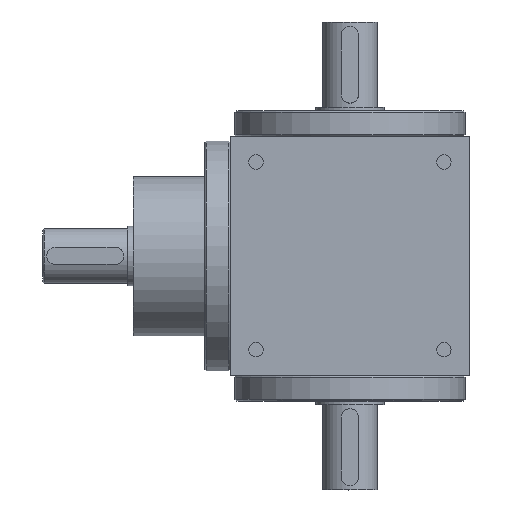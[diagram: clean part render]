
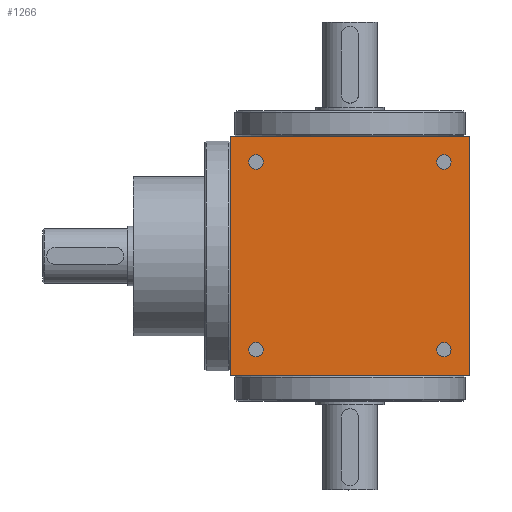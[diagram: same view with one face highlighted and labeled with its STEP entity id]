
A CAD part, top view. The second image highlights one B-rep face of the part: STEP entity #1266.
In plain terms, the highlighted planar face has unit normal (0, 0, 1).
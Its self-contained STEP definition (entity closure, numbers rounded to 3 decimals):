
#1266=ADVANCED_FACE('',(#1583,#1584,#1585,#1586,#1587),#1588,.T.);
#1583=FACE_BOUND('',#2286,.T.);
#1584=FACE_BOUND('',#2287,.T.);
#1585=FACE_BOUND('',#2288,.T.);
#1586=FACE_BOUND('',#2289,.T.);
#1587=FACE_OUTER_BOUND('',#2290,.T.);
#1588=PLANE('',#2291);
#2286=EDGE_LOOP('',(#3066));
#2287=EDGE_LOOP('',(#3067));
#2288=EDGE_LOOP('',(#3068));
#2289=EDGE_LOOP('',(#3069));
#2290=EDGE_LOOP('',(#3070,#3071,#3072,#3073));
#2291=AXIS2_PLACEMENT_3D('',#3074,#3075,#3076);
#3066=ORIENTED_EDGE('',*,*,#4408,.T.);
#3067=ORIENTED_EDGE('',*,*,#4394,.T.);
#3068=ORIENTED_EDGE('',*,*,#4407,.T.);
#3069=ORIENTED_EDGE('',*,*,#4406,.T.);
#3070=ORIENTED_EDGE('',*,*,#4426,.T.);
#3071=ORIENTED_EDGE('',*,*,#4427,.T.);
#3072=ORIENTED_EDGE('',*,*,#4424,.T.);
#3073=ORIENTED_EDGE('',*,*,#4428,.T.);
#3074=CARTESIAN_POINT('',(-70.0,-70.0,83.889));
#3075=DIRECTION('',(0.0,0.0,1.0));
#3076=DIRECTION('',(1.0,0.0,0.0));
#4394=EDGE_CURVE('',#4769,#4769,#4770,.T.);
#4406=EDGE_CURVE('',#4792,#4792,#4793,.T.);
#4407=EDGE_CURVE('',#4794,#4794,#4795,.T.);
#4408=EDGE_CURVE('',#4796,#4796,#4797,.T.);
#4424=EDGE_CURVE('',#4829,#4827,#4830,.T.);
#4426=EDGE_CURVE('',#4832,#4833,#4834,.T.);
#4427=EDGE_CURVE('',#4833,#4829,#4835,.T.);
#4428=EDGE_CURVE('',#4827,#4832,#4836,.T.);
#4769=VERTEX_POINT('',#5680);
#4770=CIRCLE('',#5681,4.25);
#4792=VERTEX_POINT('',#5703);
#4793=CIRCLE('',#5704,4.25);
#4794=VERTEX_POINT('',#5705);
#4795=CIRCLE('',#5706,4.25);
#4796=VERTEX_POINT('',#5707);
#4797=CIRCLE('',#5708,4.25);
#4827=VERTEX_POINT('',#5739);
#4829=VERTEX_POINT('',#5742);
#4830=LINE('',#5743,#5744);
#4832=VERTEX_POINT('',#5747);
#4833=VERTEX_POINT('',#5748);
#4834=LINE('',#5749,#5750);
#4835=LINE('',#5751,#5752);
#4836=LINE('',#5753,#5754);
#5680=CARTESIAN_POINT('',(55.0,-59.25,83.889));
#5681=AXIS2_PLACEMENT_3D('',#6694,#6695,#6696);
#5703=CARTESIAN_POINT('',(-55.0,50.75,83.889));
#5704=AXIS2_PLACEMENT_3D('',#6730,#6731,#6732);
#5705=CARTESIAN_POINT('',(55.0,50.75,83.889));
#5706=AXIS2_PLACEMENT_3D('',#6733,#6734,#6735);
#5707=CARTESIAN_POINT('',(-55.0,-59.25,83.889));
#5708=AXIS2_PLACEMENT_3D('',#6736,#6737,#6738);
#5739=CARTESIAN_POINT('',(70.0,70.0,83.889));
#5742=CARTESIAN_POINT('',(70.0,-70.0,83.889));
#5743=CARTESIAN_POINT('',(70.0,-70.0,83.889));
#5744=VECTOR('',#6780,1.0);
#5747=CARTESIAN_POINT('',(-70.0,70.0,83.889));
#5748=CARTESIAN_POINT('',(-70.0,-70.0,83.889));
#5749=CARTESIAN_POINT('',(-70.0,70.0,83.889));
#5750=VECTOR('',#6782,1.0);
#5751=CARTESIAN_POINT('',(-70.0,-70.0,83.889));
#5752=VECTOR('',#6783,1.0);
#5753=CARTESIAN_POINT('',(70.0,70.0,83.889));
#5754=VECTOR('',#6784,1.0);
#6694=CARTESIAN_POINT('',(55.0,-55.0,83.889));
#6695=DIRECTION('',(0.0,0.,-1.0));
#6696=DIRECTION('',(0.0,-1.0,0.));
#6730=CARTESIAN_POINT('',(-55.0,55.0,83.889));
#6731=DIRECTION('',(0.0,0.,-1.0));
#6732=DIRECTION('',(0.0,-1.0,0.));
#6733=CARTESIAN_POINT('',(55.0,55.0,83.889));
#6734=DIRECTION('',(0.0,0.,-1.0));
#6735=DIRECTION('',(0.0,-1.0,0.));
#6736=CARTESIAN_POINT('',(-55.0,-55.0,83.889));
#6737=DIRECTION('',(0.0,0.,-1.0));
#6738=DIRECTION('',(0.0,-1.0,0.));
#6780=DIRECTION('',(0.0,1.0,0.0));
#6782=DIRECTION('',(0.0,-1.0,0.0));
#6783=DIRECTION('',(1.0,0.0,0.0));
#6784=DIRECTION('',(-1.0,0.0,0.0));
